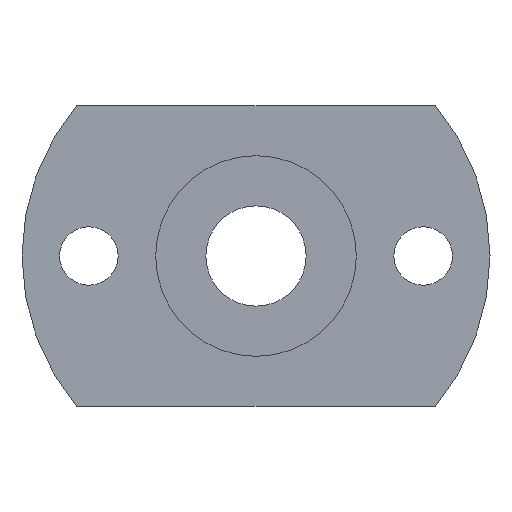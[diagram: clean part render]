
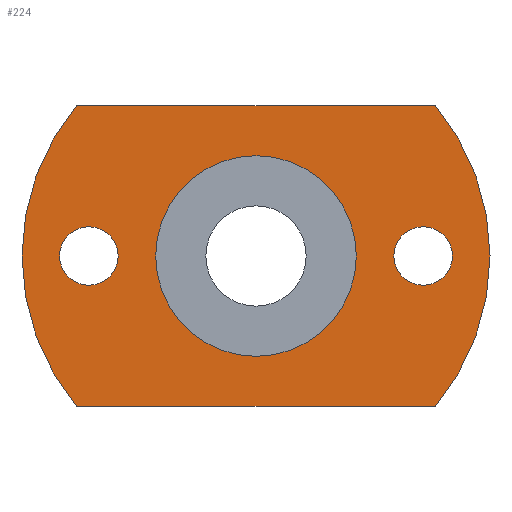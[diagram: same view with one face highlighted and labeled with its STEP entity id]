
A CAD part, left-side view. The second image highlights one B-rep face of the part: STEP entity #224.
In plain terms, the highlighted planar face has unit normal (-1, 0, 0).
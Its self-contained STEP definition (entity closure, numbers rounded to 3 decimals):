
#22=PLANE('',#261);
#31=LINE('',#382,#39);
#32=LINE('',#386,#40);
#39=VECTOR('',#314,1000.);
#40=VECTOR('',#317,1000.);
#60=ORIENTED_EDGE('',*,*,#104,.T.);
#61=ORIENTED_EDGE('',*,*,#105,.F.);
#62=ORIENTED_EDGE('',*,*,#106,.T.);
#63=ORIENTED_EDGE('',*,*,#93,.F.);
#64=ORIENTED_EDGE('',*,*,#107,.F.);
#65=ORIENTED_EDGE('',*,*,#108,.F.);
#66=ORIENTED_EDGE('',*,*,#96,.T.);
#93=EDGE_CURVE('',#117,#118,#136,.T.);
#96=EDGE_CURVE('',#120,#120,#138,.T.);
#104=EDGE_CURVE('',#117,#127,#31,.T.);
#105=EDGE_CURVE('',#128,#127,#144,.T.);
#106=EDGE_CURVE('',#128,#118,#32,.T.);
#107=EDGE_CURVE('',#129,#129,#145,.T.);
#108=EDGE_CURVE('',#130,#130,#146,.T.);
#117=VERTEX_POINT('',#356);
#118=VERTEX_POINT('',#358);
#120=VERTEX_POINT('',#364);
#127=VERTEX_POINT('',#383);
#128=VERTEX_POINT('',#385);
#129=VERTEX_POINT('',#388);
#130=VERTEX_POINT('',#390);
#136=CIRCLE('',#249,14.);
#138=CIRCLE('',#252,6.);
#144=CIRCLE('',#262,14.);
#145=CIRCLE('',#263,1.75);
#146=CIRCLE('',#264,1.75);
#162=EDGE_LOOP('',(#60,#61,#62,#63));
#163=EDGE_LOOP('',(#64));
#164=EDGE_LOOP('',(#65));
#165=EDGE_LOOP('',(#66));
#192=FACE_BOUND('',#162,.T.);
#193=FACE_BOUND('',#163,.T.);
#194=FACE_BOUND('',#164,.T.);
#195=FACE_BOUND('',#165,.T.);
#224=ADVANCED_FACE('',(#192,#193,#194,#195),#22,.F.);
#249=AXIS2_PLACEMENT_3D('',#357,#285,#286);
#252=AXIS2_PLACEMENT_3D('',#363,#292,#293);
#261=AXIS2_PLACEMENT_3D('',#381,#312,#313);
#262=AXIS2_PLACEMENT_3D('',#384,#315,#316);
#263=AXIS2_PLACEMENT_3D('',#387,#318,#319);
#264=AXIS2_PLACEMENT_3D('',#389,#320,#321);
#285=DIRECTION('',(1.,0.,0.));
#286=DIRECTION('',(0.,0.,-1.));
#292=DIRECTION('',(1.,0.,0.));
#293=DIRECTION('',(0.,0.,-1.));
#312=DIRECTION('',(1.,0.,0.));
#313=DIRECTION('',(0.,0.,-1.));
#314=DIRECTION('',(0.,1.,0.));
#315=DIRECTION('',(1.,0.,0.));
#316=DIRECTION('',(0.,0.,-1.));
#317=DIRECTION('',(0.,-1.,0.));
#318=DIRECTION('',(-1.,0.,0.));
#319=DIRECTION('',(0.,0.,1.));
#320=DIRECTION('',(-1.,0.,0.));
#321=DIRECTION('',(0.,0.,1.));
#356=CARTESIAN_POINT('',(12.5,-10.724,9.));
#357=CARTESIAN_POINT('',(12.5,0.,0.));
#358=CARTESIAN_POINT('',(12.5,-10.724,-9.));
#363=CARTESIAN_POINT('',(12.5,0.,0.));
#364=CARTESIAN_POINT('',(12.5,0.,-6.));
#381=CARTESIAN_POINT('',(12.5,0.,0.));
#382=CARTESIAN_POINT('',(12.5,17.002,9.));
#383=CARTESIAN_POINT('',(12.5,10.724,9.));
#384=CARTESIAN_POINT('',(12.5,0.,0.));
#385=CARTESIAN_POINT('',(12.5,10.724,-9.));
#386=CARTESIAN_POINT('',(12.5,17.002,-9.));
#387=CARTESIAN_POINT('',(12.5,-10.,0.));
#388=CARTESIAN_POINT('',(12.5,-10.,1.75));
#389=CARTESIAN_POINT('',(12.5,10.,0.));
#390=CARTESIAN_POINT('',(12.5,10.,1.75));
